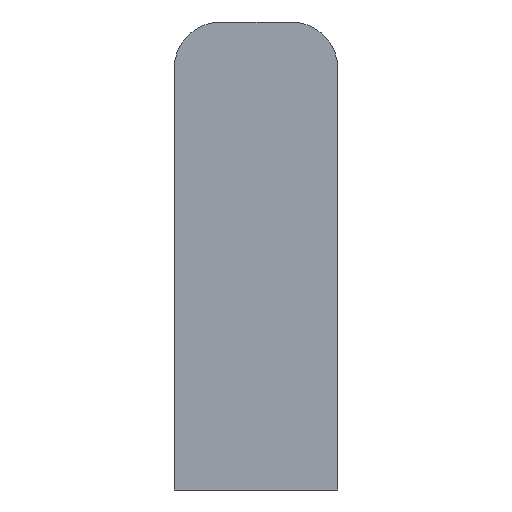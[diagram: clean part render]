
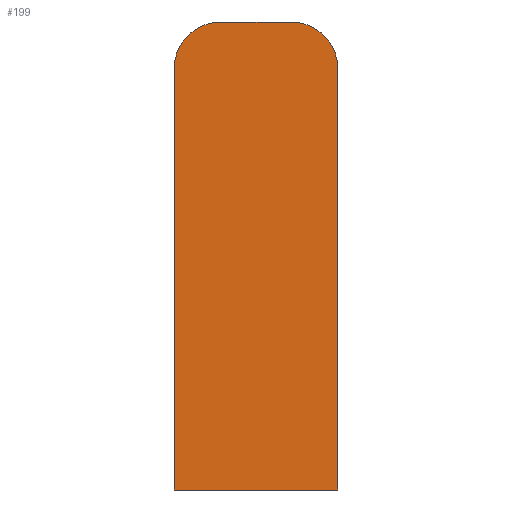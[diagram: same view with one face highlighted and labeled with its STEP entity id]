
A CAD part, front view. The second image highlights one B-rep face of the part: STEP entity #199.
In plain terms, the highlighted planar face has unit normal (0, -1, 0).
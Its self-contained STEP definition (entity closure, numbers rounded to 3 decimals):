
#35 = FACE_OUTER_BOUND ( 'NONE', #107, .T. ) ;
#40 = ORIENTED_EDGE ( 'NONE', *, *, #403, .T. ) ;
#41 = ORIENTED_EDGE ( 'NONE', *, *, #426, .T. ) ;
#42 = ORIENTED_EDGE ( 'NONE', *, *, #443, .T. ) ;
#84 = ORIENTED_EDGE ( 'NONE', *, *, #416, .T. ) ;
#85 = ORIENTED_EDGE ( 'NONE', *, *, #402, .T. ) ;
#99 = LINE ( 'NONE', #222, #144 ) ;
#107 = EDGE_LOOP ( 'NONE', ( #123, #42, #41, #40, #85, #84 ) ) ;
#118 = CIRCLE ( 'NONE', #395, 3. ) ;
#123 = ORIENTED_EDGE ( 'NONE', *, *, #461, .T. ) ;
#138 = VECTOR ( 'NONE', #292, 1000. ) ;
#139 = LINE ( 'NONE', #323, #143 ) ;
#143 = VECTOR ( 'NONE', #313, 1000. ) ;
#144 = VECTOR ( 'NONE', #329, 1000. ) ;
#153 = CIRCLE ( 'NONE', #396, 3. ) ;
#165 = LINE ( 'NONE', #372, #166 ) ;
#166 = VECTOR ( 'NONE', #373, 1000. ) ;
#170 = LINE ( 'NONE', #290, #138 ) ;
#176 = VERTEX_POINT ( 'NONE', #297 ) ;
#184 = VERTEX_POINT ( 'NONE', #195 ) ;
#185 = VERTEX_POINT ( 'NONE', #225 ) ;
#188 = VERTEX_POINT ( 'NONE', #306 ) ;
#190 = VERTEX_POINT ( 'NONE', #308 ) ;
#195 = CARTESIAN_POINT ( 'NONE',  ( 5.25, 0., 10.5 ) ) ;
#199 = ADVANCED_FACE ( 'NONE', ( #35 ), #228, .F. ) ;
#222 = CARTESIAN_POINT ( 'NONE',  ( 2.25, 0., 13.5 ) ) ;
#225 = CARTESIAN_POINT ( 'NONE',  ( -5.25, 0., -16.5 ) ) ;
#227 = CARTESIAN_POINT ( 'NONE',  ( 0., 0., -1.5 ) ) ;
#228 = PLANE ( 'NONE',  #447 ) ;
#236 = DIRECTION ( 'NONE',  ( 0., 1., 0. ) ) ;
#237 = DIRECTION ( 'NONE',  ( -1., 0., 0. ) ) ;
#285 = CARTESIAN_POINT ( 'NONE',  ( -5.25, 0., 10.5 ) ) ;
#290 = CARTESIAN_POINT ( 'NONE',  ( -5.25, 0., -16.5 ) ) ;
#292 = DIRECTION ( 'NONE',  ( 0., 0., -1. ) ) ;
#293 = CARTESIAN_POINT ( 'NONE',  ( -2.25, 0., 10.5 ) ) ;
#294 = DIRECTION ( 'NONE',  ( 0., -1., 0. ) ) ;
#295 = DIRECTION ( 'NONE',  ( -1., 0., 0. ) ) ;
#297 = CARTESIAN_POINT ( 'NONE',  ( 2.25, 0., 13.5 ) ) ;
#306 = CARTESIAN_POINT ( 'NONE',  ( 5.25, 0., -16.5 ) ) ;
#308 = CARTESIAN_POINT ( 'NONE',  ( -2.25, 0., 13.5 ) ) ;
#313 = DIRECTION ( 'NONE',  ( 1., 0., 0. ) ) ;
#323 = CARTESIAN_POINT ( 'NONE',  ( 5.25, 0., -16.5 ) ) ;
#324 = VERTEX_POINT ( 'NONE', #285 ) ;
#329 = DIRECTION ( 'NONE',  ( -1., 0., 0. ) ) ;
#347 = CARTESIAN_POINT ( 'NONE',  ( 2.25, 0., 10.5 ) ) ;
#348 = DIRECTION ( 'NONE',  ( 0., -1., 0. ) ) ;
#349 = DIRECTION ( 'NONE',  ( -1., 0., 0. ) ) ;
#372 = CARTESIAN_POINT ( 'NONE',  ( 5.25, 0., -16.5 ) ) ;
#373 = DIRECTION ( 'NONE',  ( 0., 0., 1. ) ) ;
#395 = AXIS2_PLACEMENT_3D ( 'NONE', #293, #294, #295 ) ;
#396 = AXIS2_PLACEMENT_3D ( 'NONE', #347, #348, #349 ) ;
#402 = EDGE_CURVE ( 'NONE', #324, #185, #170, .T. ) ;
#403 = EDGE_CURVE ( 'NONE', #190, #324, #118, .T. ) ;
#416 = EDGE_CURVE ( 'NONE', #185, #188, #139, .T. ) ;
#426 = EDGE_CURVE ( 'NONE', #176, #190, #99, .T. ) ;
#443 = EDGE_CURVE ( 'NONE', #184, #176, #153, .T. ) ;
#447 = AXIS2_PLACEMENT_3D ( 'NONE', #227, #236, #237 ) ;
#461 = EDGE_CURVE ( 'NONE', #188, #184, #165, .T. ) ;
